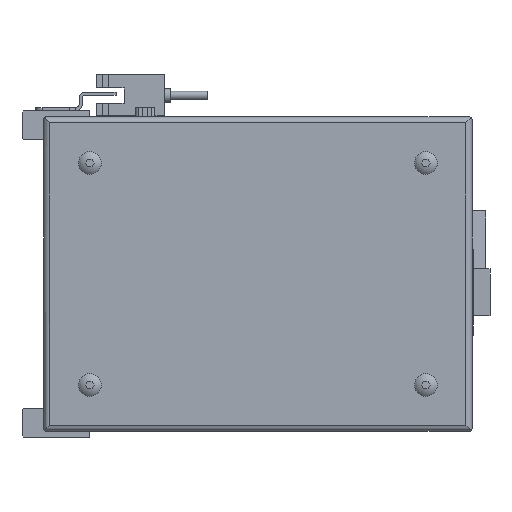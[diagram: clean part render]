
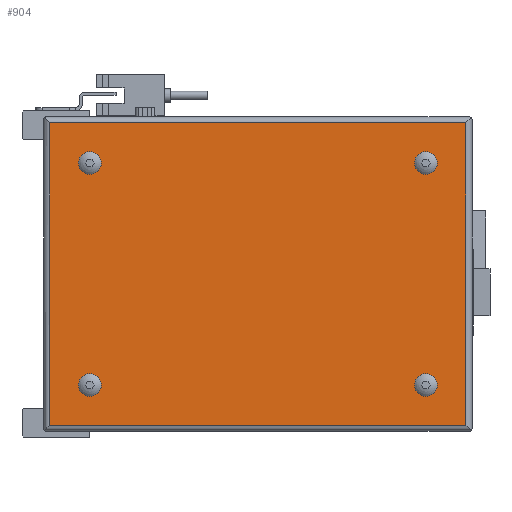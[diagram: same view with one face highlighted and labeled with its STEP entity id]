
A CAD part, left-side view. The second image highlights one B-rep face of the part: STEP entity #904.
In plain terms, the highlighted planar face has unit normal (-1, 0, 0).
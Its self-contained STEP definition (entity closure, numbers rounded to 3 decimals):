
#904 = ADVANCED_FACE( '', ( #2418, #2419, #2420, #2421, #2422 ), #2423, .F. );
#2418 = FACE_BOUND( '', #4803, .T. );
#2419 = FACE_BOUND( '', #4804, .T. );
#2420 = FACE_BOUND( '', #4805, .T. );
#2421 = FACE_BOUND( '', #4806, .T. );
#2422 = FACE_OUTER_BOUND( '', #4807, .T. );
#2423 = PLANE( '', #4808 );
#4803 = EDGE_LOOP( '', ( #7181 ) );
#4804 = EDGE_LOOP( '', ( #7182 ) );
#4805 = EDGE_LOOP( '', ( #7183 ) );
#4806 = EDGE_LOOP( '', ( #7184 ) );
#4807 = EDGE_LOOP( '', ( #7185, #7186, #7187, #7188 ) );
#4808 = AXIS2_PLACEMENT_3D( '', #7189, #7190, #7191 );
#7181 = ORIENTED_EDGE( '', *, *, #13705, .F. );
#7182 = ORIENTED_EDGE( '', *, *, #13706, .F. );
#7183 = ORIENTED_EDGE( '', *, *, #13707, .F. );
#7184 = ORIENTED_EDGE( '', *, *, #13708, .F. );
#7185 = ORIENTED_EDGE( '', *, *, #13709, .T. );
#7186 = ORIENTED_EDGE( '', *, *, #13710, .F. );
#7187 = ORIENTED_EDGE( '', *, *, #13711, .F. );
#7188 = ORIENTED_EDGE( '', *, *, #13712, .T. );
#7189 = CARTESIAN_POINT( '', ( -52., -75., 50. ) );
#7190 = DIRECTION( '', ( 1., 0., 0. ) );
#7191 = DIRECTION( '', ( 0., 0., -1. ) );
#13705 = EDGE_CURVE( '', #16249, #16249, #16250, .F. );
#13706 = EDGE_CURVE( '', #16251, #16251, #16252, .F. );
#13707 = EDGE_CURVE( '', #16253, #16253, #16254, .F. );
#13708 = EDGE_CURVE( '', #16255, #16255, #16256, .F. );
#13709 = EDGE_CURVE( '', #16257, #16258, #16259, .F. );
#13710 = EDGE_CURVE( '', #16260, #16258, #16261, .T. );
#13711 = EDGE_CURVE( '', #16262, #16260, #16263, .F. );
#13712 = EDGE_CURVE( '', #16262, #16257, #16264, .T. );
#16249 = VERTEX_POINT( '', #20055 );
#16250 = CIRCLE( '', #20056, 3.7 );
#16251 = VERTEX_POINT( '', #20057 );
#16252 = CIRCLE( '', #20058, 3.7 );
#16253 = VERTEX_POINT( '', #20059 );
#16254 = CIRCLE( '', #20060, 3.7 );
#16255 = VERTEX_POINT( '', #20061 );
#16256 = CIRCLE( '', #20062, 3.7 );
#16257 = VERTEX_POINT( '', #20063 );
#16258 = VERTEX_POINT( '', #20064 );
#16259 = LINE( '', #20065, #20066 );
#16260 = VERTEX_POINT( '', #20067 );
#16261 = LINE( '', #20068, #20069 );
#16262 = VERTEX_POINT( '', #20070 );
#16263 = LINE( '', #20071, #20072 );
#16264 = LINE( '', #20073, #20074 );
#20055 = CARTESIAN_POINT( '', ( -52., -61., 32.3 ) );
#20056 = AXIS2_PLACEMENT_3D( '', #25742, #25743, #25744 );
#20057 = CARTESIAN_POINT( '', ( -52., -61., -39.7 ) );
#20058 = AXIS2_PLACEMENT_3D( '', #25745, #25746, #25747 );
#20059 = CARTESIAN_POINT( '', ( -52., 48., 32.3 ) );
#20060 = AXIS2_PLACEMENT_3D( '', #25748, #25749, #25750 );
#20061 = CARTESIAN_POINT( '', ( -52., 48., -39.7 ) );
#20062 = AXIS2_PLACEMENT_3D( '', #25751, #25752, #25753 );
#20063 = CARTESIAN_POINT( '', ( -52., -74., 49. ) );
#20064 = CARTESIAN_POINT( '', ( -52., 61., 49. ) );
#20065 = CARTESIAN_POINT( '', ( -52., 139., 49. ) );
#20066 = VECTOR( '', #25754, 1000. );
#20067 = CARTESIAN_POINT( '', ( -52., 61., -49. ) );
#20068 = CARTESIAN_POINT( '', ( -52., 61., -102. ) );
#20069 = VECTOR( '', #25755, 1000. );
#20070 = CARTESIAN_POINT( '', ( -52., -74., -49. ) );
#20071 = CARTESIAN_POINT( '', ( -52., 139., -49. ) );
#20072 = VECTOR( '', #25756, 1000. );
#20073 = CARTESIAN_POINT( '', ( -52., -74., -102. ) );
#20074 = VECTOR( '', #25757, 1000. );
#25742 = CARTESIAN_POINT( '', ( -52., -61., 36. ) );
#25743 = DIRECTION( '', ( 1., 0., 0. ) );
#25744 = DIRECTION( '', ( 0., 0., -1. ) );
#25745 = CARTESIAN_POINT( '', ( -52., -61., -36. ) );
#25746 = DIRECTION( '', ( 1., 0., 0. ) );
#25747 = DIRECTION( '', ( 0., 0., -1. ) );
#25748 = CARTESIAN_POINT( '', ( -52., 48., 36. ) );
#25749 = DIRECTION( '', ( 1., 0., 0. ) );
#25750 = DIRECTION( '', ( 0., 0., -1. ) );
#25751 = CARTESIAN_POINT( '', ( -52., 48., -36. ) );
#25752 = DIRECTION( '', ( 1., 0., 0. ) );
#25753 = DIRECTION( '', ( 0., 0., -1. ) );
#25754 = DIRECTION( '', ( 0., -1., 0. ) );
#25755 = DIRECTION( '', ( 0., 0., 1. ) );
#25756 = DIRECTION( '', ( 0., -1., 0. ) );
#25757 = DIRECTION( '', ( 0., 0., 1. ) );
